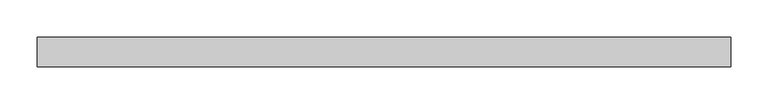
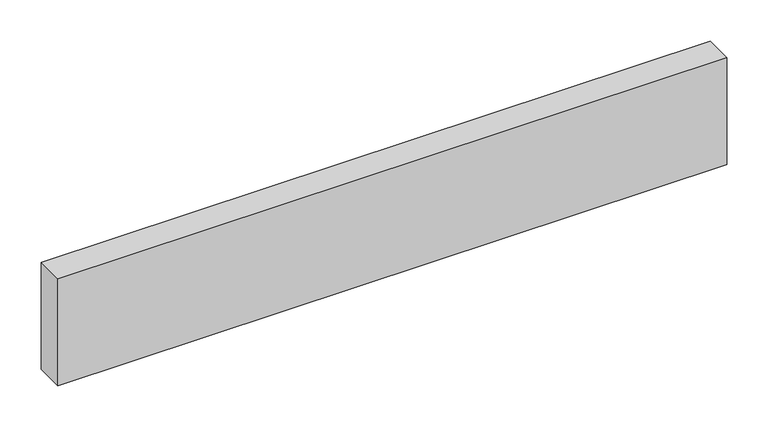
"""IFC4 building model written with IfcOpenShell, lengths in millimetres: plate geometry, Panneau système vide : Epaiss. 4cm."""

from ifc_helpers import new_model, si_unit, origin, origin_with_axes, place, context, project, spatial, polyline, outline, extrude, source, transform, mapped, element, save


def plate_0d8e7067(model_context):
    return source(origin(), model_context, "Body", "SweptSolid", [
        extrude(outline(polyline([(468.0778041, -20.0), (-468.0778041, -20.0), (-468.0778041, 20.0), (468.0778041, 20.0), (468.0778041, -20.0)])), origin_with_axes(), (0.0, 0.0, 1.0), 158.3333333),
    ])


if __name__ == "__main__":
    model = new_model("IFC4")
    model_context = context("Model", 3, world=origin())
    ifc_project = project(units=[si_unit("LENGTHUNIT", "METRE", prefix="MILLI")], contexts=[model_context])
    site = spatial("IfcSite", under=ifc_project)
    building = spatial("IfcBuilding", under=site)
    placement = place(None, origin())
    plate_shape = plate_0d8e7067(model_context)
    element("IfcPlate", 1, ObjectType="Panneau système vide : Epaiss. 4cm", at=placement, inside=building, context=model_context, shape_type="MappedRepresentation", body=[
        mapped(plate_shape, transform((0.0, 0.0, 0.0), x_axis=(1.0, 0.0, 0.0), y_axis=(0.0, 1.0, 0.0), z_axis=(0.0, 0.0, 1.0))),
    ])
    save(model, "model.ifc")
